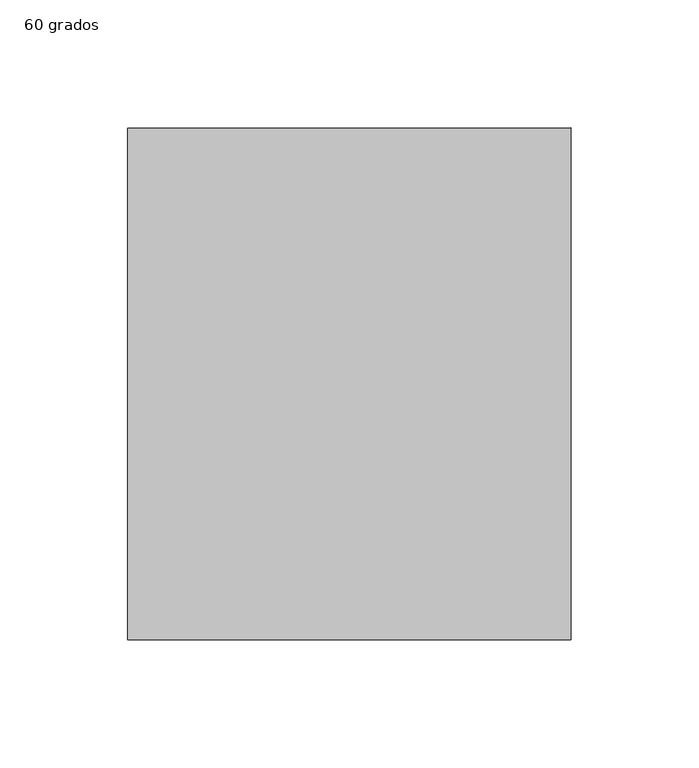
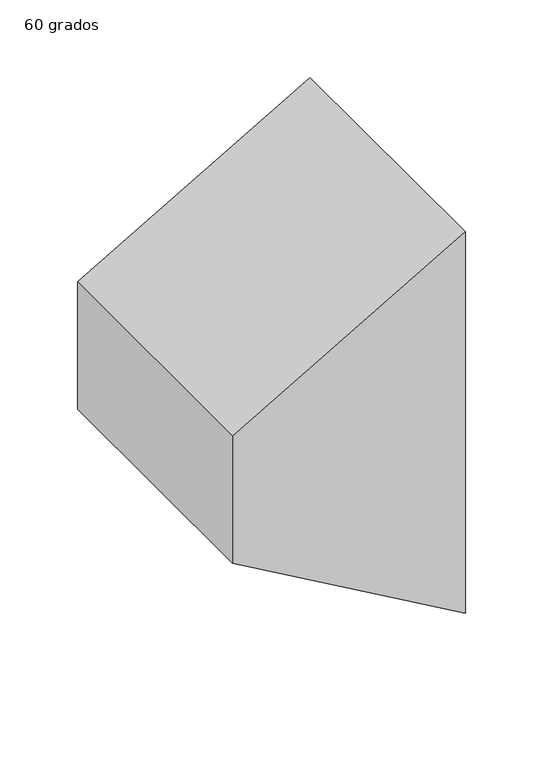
"""IFC4 building model written with IfcOpenShell, lengths in millimetres: duct fitting geometry, M_Transición rectangular - Ángulo : 60 grados."""

from ifc_helpers import new_model, si_unit, frame, origin, place, context, project, spatial, polyline, outline, extrude, source, transform, mapped, element, save


def duct_fitting_60_grados_514941ae(model_context):
    return source(origin(), model_context, "Body", "SweptSolid", [
        extrude(outline(polyline([(50.0, 0.0), (-50.0, 0.0), (-150.0, 173.2050808), (150.0, 173.2050808), (50.0, 0.0)])), frame((0.0, -100.0, 0.0), z_axis=(0.0, 1.0, 0.0), x_axis=(0.0, 0.0, 1.0)), (0.0, 0.0, 1.0), 200.0),
    ])


if __name__ == "__main__":
    model = new_model("IFC4")
    model_context = context("Model", 3, world=origin())
    ifc_project = project(units=[si_unit("LENGTHUNIT", "METRE", prefix="MILLI")], contexts=[model_context])
    site = spatial("IfcSite", under=ifc_project)
    building = spatial("IfcBuilding", under=site)
    placement = place(None, origin())
    duct_fitting_60_grados_shape = duct_fitting_60_grados_514941ae(model_context)
    element("IfcDuctFitting", 1, ObjectType="M_Transición rectangular - Ángulo : 60 grados", at=placement, inside=building, context=model_context, shape_type="MappedRepresentation", body=[
        mapped(duct_fitting_60_grados_shape, transform((0.0, 0.0, 0.0), x_axis=(1.0, 0.0, 0.0), y_axis=(0.0, 1.0, 0.0), z_axis=(0.0, 0.0, 1.0))),
    ])
    save(model, "model.ifc")
